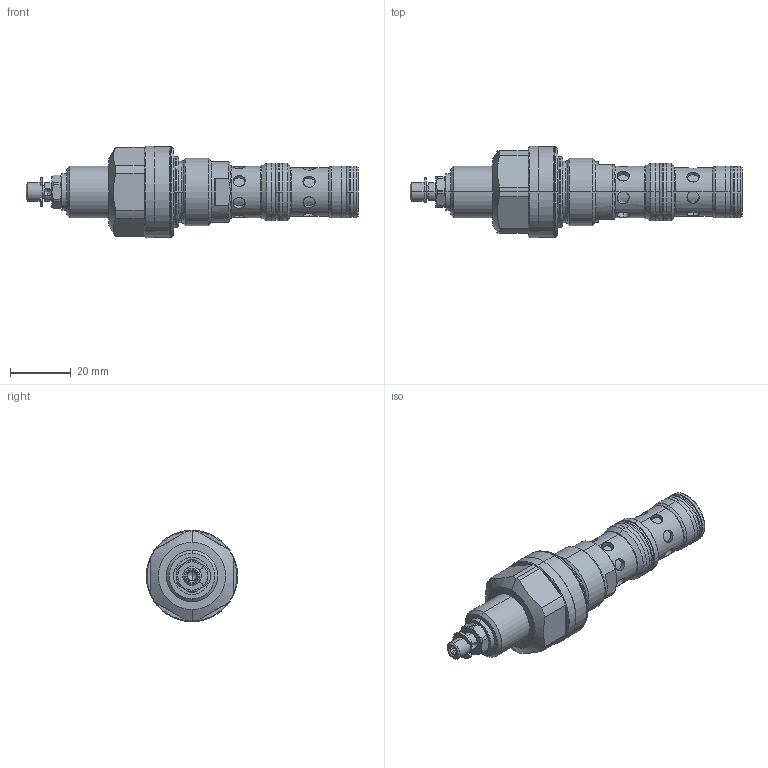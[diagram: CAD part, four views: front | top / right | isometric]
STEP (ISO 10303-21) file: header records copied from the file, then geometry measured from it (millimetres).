
FILE_DESCRIPTION (( 'STEP AP214' ), '1' );
FILE_NAME ('QDSPM22.STEP', '2017-03-24T13:31:53', ( '' ), ( '' ), 'SwSTEP 2.0', 'SolidWorks 2016', '' );
FILE_SCHEMA (( 'AUTOMOTIVE_DESIGN' ));
Length unit declared in the file: millimetre
Products named in the file (1): QDSPM22
Bounding box: 108.9 x 30 x 30 mm (x, y, z)
Volume: 32825.3 mm3; surface area: 10815 mm2
Topology: 7 solids, 7 shells, 339 faces, 794 edges, 492 vertices
Faces by surface type: cylinder 133, plane 77, cone 67, torus 38, bspline 24
Entity records: 15482 total; most frequent: CARTESIAN_POINT 3976, DIRECTION 1665, ORIENTED_EDGE 1580, EDGE_CURVE 790, AXIS2_PLACEMENT_3D 707, VERTEX_POINT 492, CIRCLE 391, EDGE_LOOP 378
